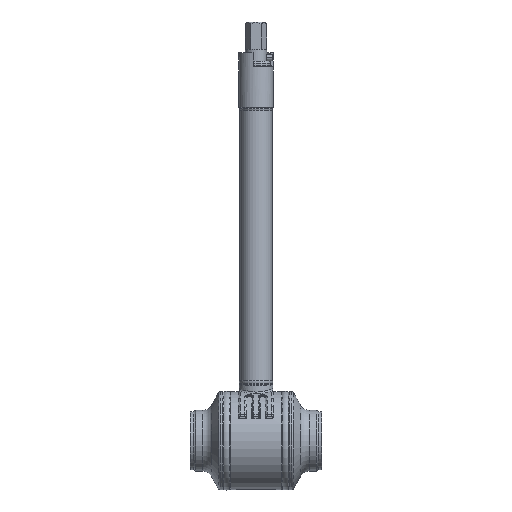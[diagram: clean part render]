
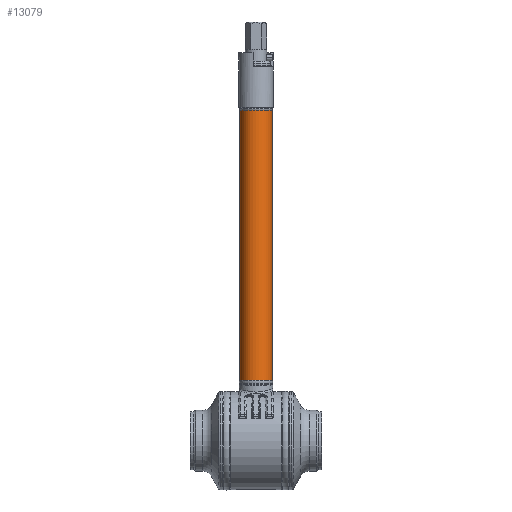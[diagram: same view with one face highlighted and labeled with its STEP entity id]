
A CAD part, front view. The second image highlights one B-rep face of the part: STEP entity #13079.
In plain terms, the highlighted cylindrical face has radius 16.85 mm (diameter 33.7 mm), a partial arc.
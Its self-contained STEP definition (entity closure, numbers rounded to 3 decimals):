
#3140=DIRECTION('',(0.,0.,1.));
#3141=VECTOR('',#3140,279.282);
#3142=CARTESIAN_POINT('',(16.85,0.,62.65));
#3143=LINE('',#3142,#3141);
#3149=DIRECTION('',(0.,0.,1.));
#3150=VECTOR('',#3149,279.282);
#3151=CARTESIAN_POINT('',(-16.85,0.,62.65));
#3152=LINE('',#3151,#3150);
#3153=CARTESIAN_POINT('',(0.,0.,62.65));
#3154=DIRECTION('',(0.,0.,-1.));
#3155=DIRECTION('',(1.,0.,0.));
#3156=AXIS2_PLACEMENT_3D('',#3153,#3154,#3155);
#3158=CARTESIAN_POINT('',(0.,0.,341.932));
#3159=DIRECTION('',(0.,0.,-1.));
#3160=DIRECTION('',(1.,0.,0.));
#3161=AXIS2_PLACEMENT_3D('',#3158,#3159,#3160);
#7374=CARTESIAN_POINT('',(16.85,0.,341.932));
#7375=CARTESIAN_POINT('',(-16.85,0.,341.932));
#7376=VERTEX_POINT('',#7374);
#7377=VERTEX_POINT('',#7375);
#7386=CARTESIAN_POINT('',(16.85,0.,62.65));
#7387=CARTESIAN_POINT('',(-16.85,0.,62.65));
#7388=VERTEX_POINT('',#7386);
#7389=VERTEX_POINT('',#7387);
#13067=CARTESIAN_POINT('',(0.,0.,359.2));
#13068=DIRECTION('',(0.,0.,-1.));
#13069=DIRECTION('',(-1.,0.,0.));
#13070=AXIS2_PLACEMENT_3D('',#13067,#13068,#13069);
#13071=CYLINDRICAL_SURFACE('',#13070,16.85);
#13072=ORIENTED_EDGE('',*,*,#13005,.T.);
#13073=ORIENTED_EDGE('',*,*,#13062,.T.);
#13075=ORIENTED_EDGE('',*,*,#13074,.F.);
#13076=ORIENTED_EDGE('',*,*,#13058,.F.);
#13077=EDGE_LOOP('',(#13072,#13073,#13075,#13076));
#13078=FACE_OUTER_BOUND('',#13077,.F.);
#3157=CIRCLE('',#3156,16.85);
#3162=CIRCLE('',#3161,16.85);
#13005=EDGE_CURVE('',#7388,#7389,#3157,.T.);
#13058=EDGE_CURVE('',#7388,#7376,#3143,.T.);
#13062=EDGE_CURVE('',#7389,#7377,#3152,.T.);
#13074=EDGE_CURVE('',#7376,#7377,#3162,.T.);
#13079=ADVANCED_FACE('',(#13078),#13071,.T.);
